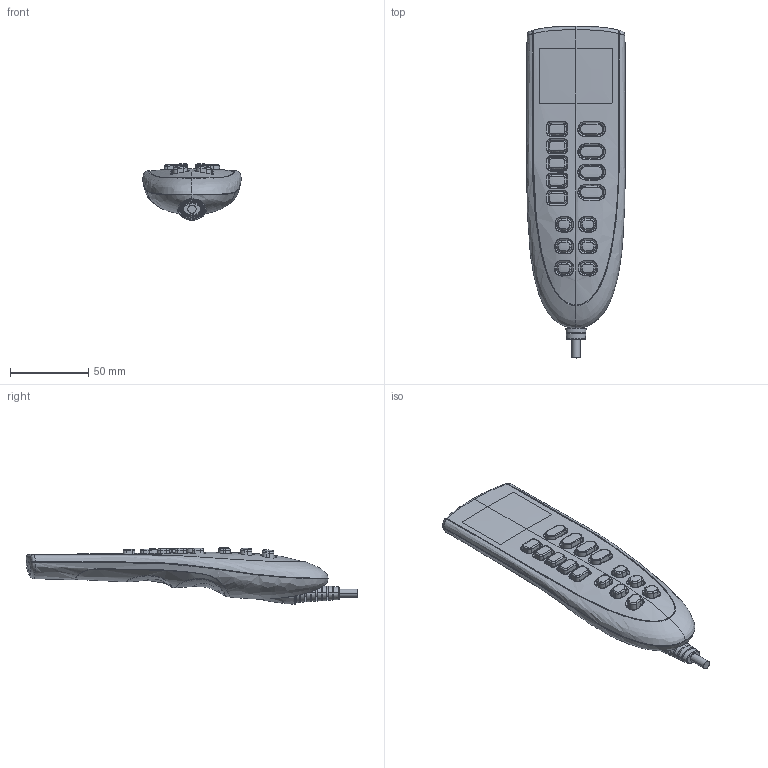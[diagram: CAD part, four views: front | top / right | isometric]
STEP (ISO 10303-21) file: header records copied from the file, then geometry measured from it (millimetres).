
FILE_DESCRIPTION(/* description */ (''),/* implementation_level */ '2;1');
FILE_NAME(/* name */ 'TH13',/* time_stamp */ '2015-03-02T17:41:08+08:00',/* author */ (''),/* organization */ (''),/* preprocessor_version */ 'ST-DEVELOPER v15',/* originating_system */ '',/* authorisation */ '');
FILE_SCHEMA (('AUTOMOTIVE_DESIGN_CC2'));
Products named in the file (1): Document
Bounding box: 63.03 x 212.49 x 36.14 mm (x, y, z)
Volume: 81794.5 mm3; surface area: 111565.6 mm2
Topology: 18 solids, 22 shells, 932 faces, 2255 edges, 1371 vertices
Faces by surface type: bspline 932
Entity records: 362695 total; most frequent: CARTESIAN_POINT 332875, B_SPLINE_CURVE_WITH_KNOTS 6562, ORIENTED_EDGE 4494, PCURVE 4494, DEFINITIONAL_REPRESENTATION 4494, SURFACE_CURVE 2249, EDGE_CURVE 2249, VERTEX_POINT 1371
